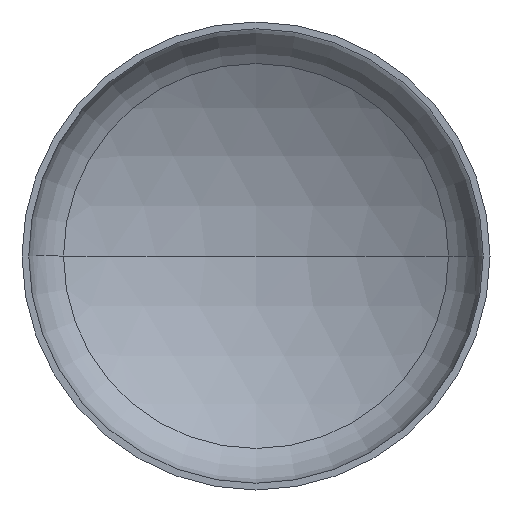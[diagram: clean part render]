
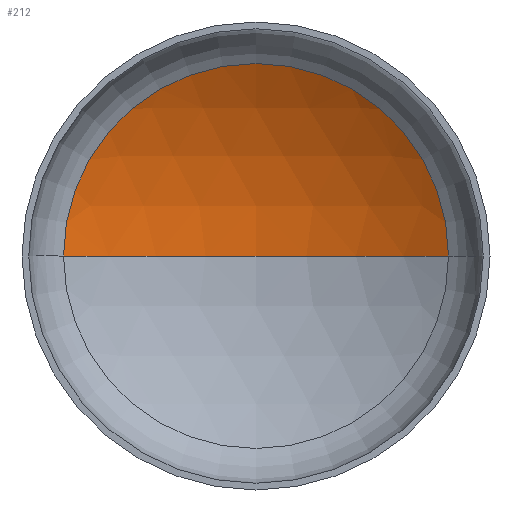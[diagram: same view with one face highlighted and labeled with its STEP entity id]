
A CAD part, front view. The second image highlights one B-rep face of the part: STEP entity #212.
In plain terms, the highlighted spherical face has radius 1440 mm.
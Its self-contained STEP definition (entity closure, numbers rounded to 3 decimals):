
#2 = DIRECTION ( 'NONE',  ( 0., -1., 0. ) ) ;
#3 = VERTEX_POINT ( 'NONE', #289 ) ;
#14 = EDGE_LOOP ( 'NONE', ( #102, #60, #21 ) ) ;
#20 = DIRECTION ( 'NONE',  ( 0., 0., -1. ) ) ;
#21 = ORIENTED_EDGE ( 'NONE', *, *, #237, .T. ) ;
#29 = CARTESIAN_POINT ( 'NONE',  ( 0., -914.212, 0. ) ) ;
#43 = CIRCLE ( 'NONE', #152, 1440. ) ;
#49 = VERTEX_POINT ( 'NONE', #265 ) ;
#60 = ORIENTED_EDGE ( 'NONE', *, *, #239, .T. ) ;
#69 = CIRCLE ( 'NONE', #162, 740.395 ) ;
#77 = VERTEX_POINT ( 'NONE', #253 ) ;
#102 = ORIENTED_EDGE ( 'NONE', *, *, #256, .F. ) ;
#152 = AXIS2_PLACEMENT_3D ( 'NONE', #204, #205, #229 ) ;
#157 = AXIS2_PLACEMENT_3D ( 'NONE', #29, #20, #408 ) ;
#162 = AXIS2_PLACEMENT_3D ( 'NONE', #313, #2, #355 ) ;
#180 = AXIS2_PLACEMENT_3D ( 'NONE', #216, #331, #345 ) ;
#196 = FACE_OUTER_BOUND ( 'NONE', #14, .T. ) ;
#204 = CARTESIAN_POINT ( 'NONE',  ( 0., -914.212, 0. ) ) ;
#205 = DIRECTION ( 'NONE',  ( 0., 0., 1. ) ) ;
#212 = ADVANCED_FACE ( 'NONE', ( #196 ), #383, .F. ) ;
#216 = CARTESIAN_POINT ( 'NONE',  ( 0., -914.212, 0. ) ) ;
#229 = DIRECTION ( 'NONE',  ( 1., 0., 0. ) ) ;
#237 = EDGE_CURVE ( 'NONE', #49, #77, #69, .T. ) ;
#239 = EDGE_CURVE ( 'NONE', #3, #49, #370, .T. ) ;
#253 = CARTESIAN_POINT ( 'NONE',  ( -740.395, 320.865, 0. ) ) ;
#256 = EDGE_CURVE ( 'NONE', #3, #77, #43, .T. ) ;
#265 = CARTESIAN_POINT ( 'NONE',  ( 740.395, 320.865, 0. ) ) ;
#289 = CARTESIAN_POINT ( 'NONE',  ( 0., 525.788, 0. ) ) ;
#313 = CARTESIAN_POINT ( 'NONE',  ( 0., 320.865, 0. ) ) ;
#331 = DIRECTION ( 'NONE',  ( 0., 0., -1. ) ) ;
#345 = DIRECTION ( 'NONE',  ( -1., 0., 0. ) ) ;
#355 = DIRECTION ( 'NONE',  ( 1., 0., 0. ) ) ;
#370 = CIRCLE ( 'NONE', #157, 1440. ) ;
#383 = SPHERICAL_SURFACE ( 'NONE', #180, 1440. ) ;
#408 = DIRECTION ( 'NONE',  ( -1., 0., 0. ) ) ;
